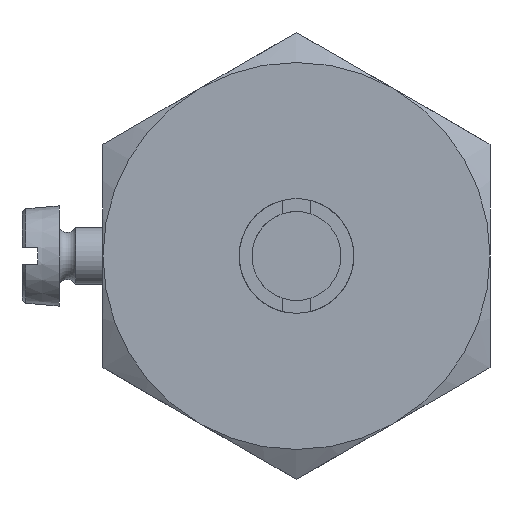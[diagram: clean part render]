
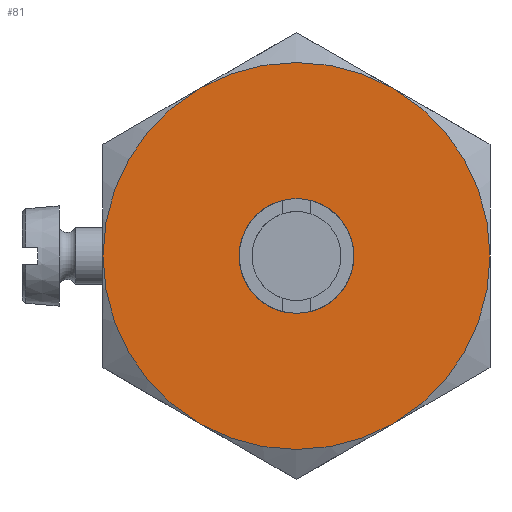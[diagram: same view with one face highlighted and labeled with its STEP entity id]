
A CAD part, left-side view. The second image highlights one B-rep face of the part: STEP entity #81.
In plain terms, the highlighted planar face has unit normal (-1, 0, 0).
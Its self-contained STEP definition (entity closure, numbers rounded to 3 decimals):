
#81 = ADVANCED_FACE( '', ( #150, #151 ), #152, .F. );
#150 = FACE_OUTER_BOUND( '', #290, .T. );
#151 = FACE_BOUND( '', #291, .T. );
#152 = PLANE( '', #292 );
#290 = EDGE_LOOP( '', ( #457, #458, #459, #460, #461, #462 ) );
#291 = EDGE_LOOP( '', ( #463 ) );
#292 = AXIS2_PLACEMENT_3D( '', #464, #465, #466 );
#457 = ORIENTED_EDGE( '', *, *, #817, .F. );
#458 = ORIENTED_EDGE( '', *, *, #818, .F. );
#459 = ORIENTED_EDGE( '', *, *, #819, .F. );
#460 = ORIENTED_EDGE( '', *, *, #820, .F. );
#461 = ORIENTED_EDGE( '', *, *, #821, .F. );
#462 = ORIENTED_EDGE( '', *, *, #822, .F. );
#463 = ORIENTED_EDGE( '', *, *, #823, .T. );
#464 = CARTESIAN_POINT( '', ( 0., 0., 0. ) );
#465 = DIRECTION( '', ( 1., 0., 0. ) );
#466 = DIRECTION( '', ( 0., 0., -1. ) );
#817 = EDGE_CURVE( '', #937, #938, #939, .T. );
#818 = EDGE_CURVE( '', #940, #937, #941, .T. );
#819 = EDGE_CURVE( '', #942, #940, #943, .T. );
#820 = EDGE_CURVE( '', #944, #942, #945, .T. );
#821 = EDGE_CURVE( '', #946, #944, #947, .T. );
#822 = EDGE_CURVE( '', #938, #946, #948, .T. );
#823 = EDGE_CURVE( '', #949, #949, #950, .T. );
#937 = VERTEX_POINT( '', #1150 );
#938 = VERTEX_POINT( '', #1151 );
#939 = CIRCLE( '', #1152, 13.5 );
#940 = VERTEX_POINT( '', #1153 );
#941 = CIRCLE( '', #1154, 13.5 );
#942 = VERTEX_POINT( '', #1155 );
#943 = CIRCLE( '', #1156, 13.5 );
#944 = VERTEX_POINT( '', #1157 );
#945 = CIRCLE( '', #1158, 13.5 );
#946 = VERTEX_POINT( '', #1159 );
#947 = CIRCLE( '', #1160, 13.5 );
#948 = CIRCLE( '', #1161, 13.5 );
#949 = VERTEX_POINT( '', #1162 );
#950 = CIRCLE( '', #1163, 4. );
#1150 = CARTESIAN_POINT( '', ( 0., 13.5, 0. ) );
#1151 = CARTESIAN_POINT( '', ( 0., 6.75, 11.691 ) );
#1152 = AXIS2_PLACEMENT_3D( '', #1499, #1500, #1501 );
#1153 = CARTESIAN_POINT( '', ( 0., 6.75, -11.691 ) );
#1154 = AXIS2_PLACEMENT_3D( '', #1502, #1503, #1504 );
#1155 = CARTESIAN_POINT( '', ( 0., -6.75, -11.691 ) );
#1156 = AXIS2_PLACEMENT_3D( '', #1505, #1506, #1507 );
#1157 = CARTESIAN_POINT( '', ( 0., -13.5, 0. ) );
#1158 = AXIS2_PLACEMENT_3D( '', #1508, #1509, #1510 );
#1159 = CARTESIAN_POINT( '', ( 0., -6.75, 11.691 ) );
#1160 = AXIS2_PLACEMENT_3D( '', #1511, #1512, #1513 );
#1161 = AXIS2_PLACEMENT_3D( '', #1514, #1515, #1516 );
#1162 = CARTESIAN_POINT( '', ( 0., 0., -4. ) );
#1163 = AXIS2_PLACEMENT_3D( '', #1517, #1518, #1519 );
#1499 = CARTESIAN_POINT( '', ( 0., 0., 0. ) );
#1500 = DIRECTION( '', ( 1., 0., 0. ) );
#1501 = DIRECTION( '', ( 0., 0., -1. ) );
#1502 = CARTESIAN_POINT( '', ( 0., 0., 0. ) );
#1503 = DIRECTION( '', ( 1., 0., 0. ) );
#1504 = DIRECTION( '', ( 0., 0., -1. ) );
#1505 = CARTESIAN_POINT( '', ( 0., 0., 0. ) );
#1506 = DIRECTION( '', ( 1., 0., 0. ) );
#1507 = DIRECTION( '', ( 0., 0., -1. ) );
#1508 = CARTESIAN_POINT( '', ( 0., 0., 0. ) );
#1509 = DIRECTION( '', ( 1., 0., 0. ) );
#1510 = DIRECTION( '', ( 0., 0., -1. ) );
#1511 = CARTESIAN_POINT( '', ( 0., 0., 0. ) );
#1512 = DIRECTION( '', ( 1., 0., 0. ) );
#1513 = DIRECTION( '', ( 0., 0., -1. ) );
#1514 = CARTESIAN_POINT( '', ( 0., 0., 0. ) );
#1515 = DIRECTION( '', ( 1., 0., 0. ) );
#1516 = DIRECTION( '', ( 0., 0., -1. ) );
#1517 = CARTESIAN_POINT( '', ( 0., 0., 0. ) );
#1518 = DIRECTION( '', ( 1., 0., 0. ) );
#1519 = DIRECTION( '', ( 0., 0., -1. ) );
